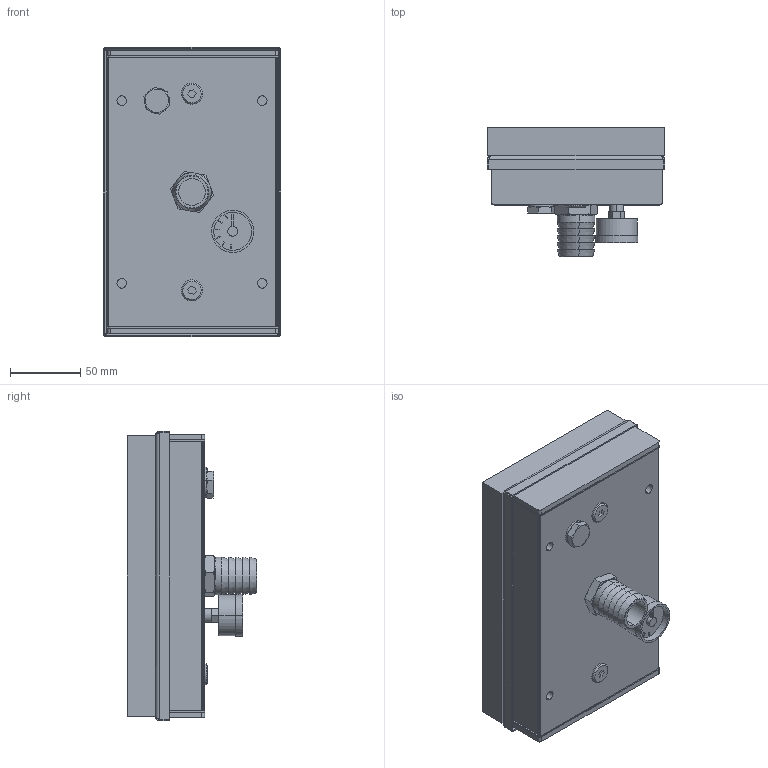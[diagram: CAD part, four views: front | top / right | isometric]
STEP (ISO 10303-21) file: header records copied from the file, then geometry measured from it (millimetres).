
FILE_DESCRIPTION (( 'STEP AP214' ), '1' );
FILE_NAME ('3-9-19221.STEP', '2012-08-30T07:18:45', ( 'cad' ), ( 'Microsoft' ), 'SwSTEP 2.0', 'SolidWorks 2012', '' );
FILE_SCHEMA (( 'AUTOMOTIVE_DESIGN' ));
Length unit declared in the file: millimetre
Products named in the file (1): 3-9-19221
Bounding box: 126 x 92 x 206 mm (x, y, z)
Volume: 1255200.1 mm3; surface area: 143089.2 mm2
Topology: 1 solids, 1 shells, 361 faces, 838 edges, 534 vertices
Faces by surface type: plane 196, cylinder 113, cone 30, bspline 14, torus 8
Entity records: 14015 total; most frequent: CARTESIAN_POINT 2640, DIRECTION 1764, ORIENTED_EDGE 1676, EDGE_CURVE 838, AXIS2_PLACEMENT_3D 650, VERTEX_POINT 534, VECTOR 464, LINE 464
